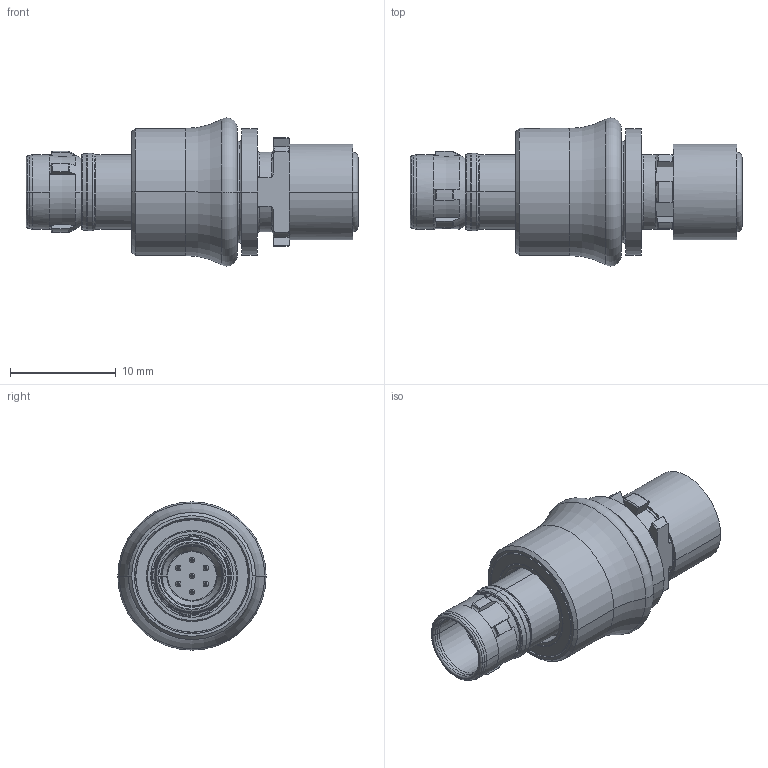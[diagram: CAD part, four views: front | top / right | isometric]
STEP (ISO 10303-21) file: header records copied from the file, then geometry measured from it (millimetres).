
FILE_DESCRIPTION((''),'2;1');
FILE_NAME('00050392-A','2020-10-27T09:31:22',('EUnterhaslberger'),(''),'CREO PARAMETRIC BY PTC INC, 2018300','CREO PARAMETRIC BY PTC INC, 2018300','');
FILE_SCHEMA(('AP242_MANAGED_MODEL_BASED_3D_ENGINEERING_MIM_LF { 1 0 10303 442 1 1 4 }'));
Length unit declared in the file: millimetre
Products named in the file (1): 00050392-A
Bounding box: 31.35 x 14 x 14 mm (x, y, z)
Volume: 1646.1 mm3; surface area: 3640.9 mm2
Topology: 1 solids, 2 shells, 684 faces, 1830 edges, 1156 vertices
Faces by surface type: cylinder 230, plane 178, torus 140, cone 108, bspline 14, sphere 14
Entity records: 27334 total; most frequent: CARTESIAN_POINT 5738, DIRECTION 3784, ORIENTED_EDGE 3604, EDGE_CURVE 1802, AXIS2_PLACEMENT_3D 1604, VERTEX_POINT 1156, CIRCLE 934, EDGE_LOOP 748
